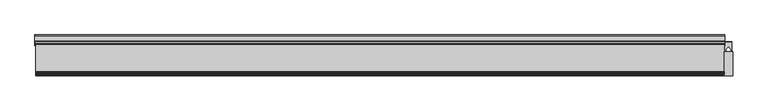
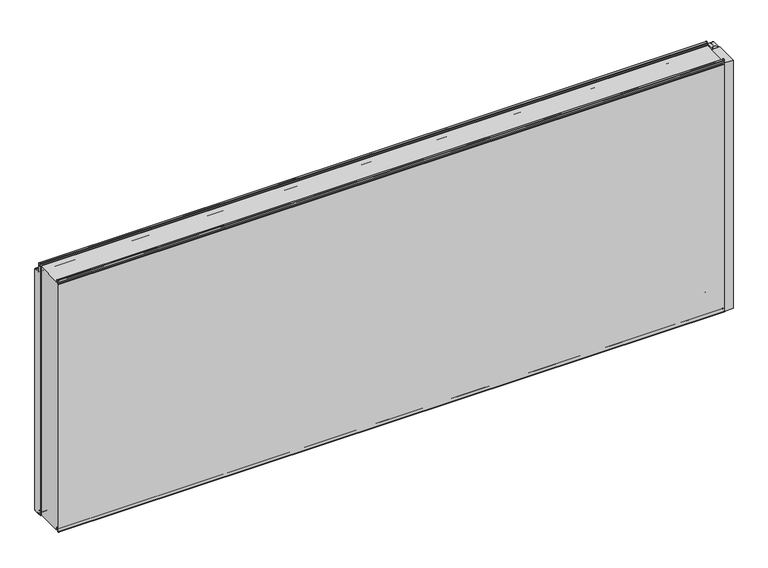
"""IFC4 building model written with IfcOpenShell, lengths in millimetres: plate geometry, Fronttop : Fronttop 150/1000."""

import ifcopenshell
import ifcopenshell.guid

model = None  # the IFC model being written
_history = None  # IfcOwnerHistory: only IFC2X3 demands one
_inside = {}  # id of a spatial element -> (the spatial element, [elements in it])
_under = {}  # id of a project, library or spatial element -> (it, [spatial elements below it])
_declared = {}  # id of a project -> (the project, [libraries it declares])
_typed = {}  # id of a type object -> (the type object, [elements of that type])
_made_of = {}  # id of a material, layer set ... -> (it, [elements and type objects made of it])


def new_model(schema):
    """Start an empty IFC model of exactly this schema.

    Asked for "IFC4X3", IfcOpenShell would pick the latest addendum, in which some entities
    have other attributes; the version numbers below select the first issue.
    IFC2X3 requires an IfcOwnerHistory on every rooted entity: one is made here for all.
    """
    global model, _history
    if schema == "IFC4X3":
        model = ifcopenshell.file(schema_version=(4, 3, 0, 0))
    else:
        model = ifcopenshell.file(schema=schema)
    _inside.clear()
    _under.clear()
    _declared.clear()
    _typed.clear()
    _made_of.clear()
    _history = None
    if model.schema == "IFC2X3":
        org = make("IfcOrganization", Name="unknown")
        user = make(
            "IfcPersonAndOrganization",
            ThePerson=make("IfcPerson", FamilyName="unknown"),
            TheOrganization=org,
        )
        app = make(
            "IfcApplication",
            ApplicationDeveloper=org,
            Version="unknown",
            ApplicationFullName="unknown",
            ApplicationIdentifier="unknown",
        )
        _history = make(
            "IfcOwnerHistory",
            OwningUser=user,
            OwningApplication=app,
            ChangeAction="ADDED",
            CreationDate=0,
        )
    return model


def make(cls, **values):
    """One entity of the class cls with the attributes given. An attribute that is None is left unset."""
    return model.create_entity(
        cls, **{name: value for name, value in values.items() if value is not None}
    )


def rooted(cls, **values):
    """An entity with a GlobalId (a new one), such as an element, a storey or a relation."""
    return make(cls, GlobalId=ifcopenshell.guid.new(), OwnerHistory=_history, **values)


def si_unit(unit_type, name, prefix=None):
    """IfcSIUnit, for example si_unit("LENGTHUNIT", "METRE", prefix="MILLI")."""
    return make("IfcSIUnit", UnitType=unit_type, Prefix=prefix, Name=name)


def assignment(units):
    """IfcUnitAssignment: the units of a project."""
    return None if units is None else make("IfcUnitAssignment", Units=units)


def point(xyz):
    """IfcCartesianPoint."""
    return None if xyz is None else make("IfcCartesianPoint", Coordinates=xyz)


def direction(xyz):
    """IfcDirection."""
    return None if xyz is None else make("IfcDirection", DirectionRatios=xyz)


def frame(location, z_axis=None, x_axis=None):
    """IfcAxis2Placement3D, a coordinate frame: its origin and axes. An axis left out is left unset."""
    return make(
        "IfcAxis2Placement3D",
        Location=point(location),
        Axis=direction(z_axis),
        RefDirection=direction(x_axis),
    )


def frame_2d(location, x_axis=None):
    """IfcAxis2Placement2D, a coordinate frame in the plane: its origin and x axis."""
    return make(
        "IfcAxis2Placement2D", Location=point(location), RefDirection=direction(x_axis)
    )


def origin():
    """The frame at (0, 0, 0) with its axes left unset."""
    return frame((0.0, 0.0, 0.0))


def origin_with_axes():
    """The frame at (0, 0, 0) with the z axis (0, 0, 1) and the x axis (1, 0, 0) written out."""
    return frame((0.0, 0.0, 0.0), z_axis=(0.0, 0.0, 1.0), x_axis=(1.0, 0.0, 0.0))


def place(relative_to, where):
    """IfcLocalPlacement: puts the frame where relative to a parent placement (None: the world)."""
    return make(
        "IfcLocalPlacement", PlacementRelTo=relative_to, RelativePlacement=where
    )


def context(
    kind, dimensions, precision=None, world=None, true_north=None, identifier=None
):
    """IfcGeometricRepresentationContext, for example the 3D "Model" context."""
    return make(
        "IfcGeometricRepresentationContext",
        ContextIdentifier=identifier,
        ContextType=kind,
        CoordinateSpaceDimension=dimensions,
        Precision=precision,
        WorldCoordinateSystem=world,
        TrueNorth=true_north,
    )


def project(units=None, contexts=None):
    """IfcProject with its units and contexts."""
    return rooted(
        "IfcProject",
        Name="project",
        RepresentationContexts=contexts,
        UnitsInContext=assignment(units),
    )


def spatial(cls, under=None, at=None, **own):
    """A site, building, storey or space (cls), placed at a placement, below another one or the project."""
    s = rooted(cls, ObjectPlacement=at, **own)
    if under is not None:
        _under.setdefault(under.id(), (under, []))[1].append(s)
    return s


def polyline(points):
    """IfcPolyline through the points."""
    return make("IfcPolyline", Points=[point(p) for p in points])


def circle_curve(where, radius):
    """IfcCircle in the frame where."""
    return make("IfcCircle", Position=where, Radius=radius)


def trimmed(basis, trim1, trim2, sense, master):
    """IfcTrimmedCurve: the piece of a basis curve between two trims."""
    return make(
        "IfcTrimmedCurve",
        BasisCurve=basis,
        Trim1=trim1,
        Trim2=trim2,
        SenseAgreement=sense,
        MasterRepresentation=master,
    )


def segment(curve, same_sense, transition):
    """IfcCompositeCurveSegment."""
    return make(
        "IfcCompositeCurveSegment",
        Transition=transition,
        SameSense=same_sense,
        ParentCurve=curve,
    )


def composite_curve(segments, self_intersect=None):
    """IfcCompositeCurve: segments joined end to end."""
    return make("IfcCompositeCurve", Segments=segments, SelfIntersect=self_intersect)


def outline(outer, holes=None, kind="AREA"):
    """IfcArbitraryClosedProfileDef: a profile drawn as a closed curve; with holes, ...WithVoids."""
    if holes is None:
        return make("IfcArbitraryClosedProfileDef", ProfileType=kind, OuterCurve=outer)
    return make(
        "IfcArbitraryProfileDefWithVoids",
        ProfileType=kind,
        OuterCurve=outer,
        InnerCurves=holes,
    )


def extrude(swept, where, along, depth):
    """IfcExtrudedAreaSolid: the profile swept, set in the frame where, extruded along a direction by depth."""
    return make(
        "IfcExtrudedAreaSolid",
        SweptArea=swept,
        Position=where,
        ExtrudedDirection=direction(along),
        Depth=depth,
    )


def shape(context_of_items, identifier, shape_type, items):
    """IfcShapeRepresentation: the items that make up one representation, for example the "Body"."""
    return make(
        "IfcShapeRepresentation",
        ContextOfItems=context_of_items,
        RepresentationIdentifier=identifier,
        RepresentationType=shape_type,
        Items=items,
    )


def source(mapping_origin, context_of_items, identifier, shape_type, items):
    """IfcRepresentationMap: a shape defined once, which mapped items show again and again."""
    return make(
        "IfcRepresentationMap",
        MappingOrigin=mapping_origin,
        MappedRepresentation=shape(context_of_items, identifier, shape_type, items),
    )


def transform(
    local_origin,
    x_axis=None,
    y_axis=None,
    z_axis=None,
    scale=None,
    scale2=None,
    scale3=None,
    uniform=True,
):
    """IfcCartesianTransformationOperator3D, or its non-uniform kind. x_axis, y_axis, z_axis: its Axis1, 2, 3."""
    if uniform:
        return make(
            "IfcCartesianTransformationOperator3D",
            Axis1=direction(x_axis),
            Axis2=direction(y_axis),
            LocalOrigin=point(local_origin),
            Scale=scale,
            Axis3=direction(z_axis),
        )
    return make(
        "IfcCartesianTransformationOperator3DnonUniform",
        Axis1=direction(x_axis),
        Axis2=direction(y_axis),
        LocalOrigin=point(local_origin),
        Scale=scale,
        Axis3=direction(z_axis),
        Scale2=scale2,
        Scale3=scale3,
    )


def mapped(mapping_source, mapping_target):
    """IfcMappedItem: shows the shape of a source again, moved by a transform."""
    return make(
        "IfcMappedItem", MappingSource=mapping_source, MappingTarget=mapping_target
    )


def made_of(thing, what):
    """Note that an element or type object is made of a material, layer set ...; save() writes the relation."""
    if what is not None:
        _made_of.setdefault(what.id(), (what, []))[1].append(thing)
    return thing


def element(
    cls,
    number,
    at=None,
    inside=None,
    cuts=None,
    type_object=None,
    material=None,
    context=None,
    identifier="Body",
    shape_type=None,
    held_by="IfcProductDefinitionShape",
    body=None,
    shapes=None,
    **own,
):
    """One element of the class cls, such as IfcWall. Its Tag is "e" and its number.

    at: its placement. inside: the storey or other place that contains it. cuts: it is an
    opening in that element (IfcRelVoidsElement). A single representation is given by context,
    identifier, shape_type and body (its items); several are given by shapes. held_by: the class
    of the entity that holds the representations. save() writes the other relations.
    """
    e = rooted(cls, Tag="e%d" % number, ObjectPlacement=at, **own)
    if body is not None:
        shapes = [shape(context, identifier, shape_type, body)]
    if shapes is not None:
        e.Representation = make(held_by, Representations=shapes)
    if inside is not None:
        _inside.setdefault(inside.id(), (inside, []))[1].append(e)
    if cuts is not None:
        rooted(
            "IfcRelVoidsElement", RelatingBuildingElement=cuts, RelatedOpeningElement=e
        )
    if type_object is not None:
        _typed.setdefault(type_object.id(), (type_object, []))[1].append(e)
    return made_of(e, material)


def aggregate(whole, parts):
    """IfcRelAggregates: a whole, such as a stair, and the parts it consists of."""
    return rooted("IfcRelAggregates", RelatingObject=whole, RelatedObjects=parts)


def save(model, path):
    """Write the relations noted so far, then the file.

    IfcRelAggregates (storeys below a building ...), IfcRelContainedInSpatialStructure (elements
    in a storey), IfcRelDefinesByType, IfcRelAssociatesMaterial and IfcRelDeclares: one each for
    every whole, place, type object, material and project.
    """
    for whole, parts in _under.values():
        aggregate(whole, parts)
    for where, things in _inside.values():
        rooted(
            "IfcRelContainedInSpatialStructure",
            RelatedElements=things,
            RelatingStructure=where,
        )
    for kind, things in _typed.values():
        rooted("IfcRelDefinesByType", RelatedObjects=things, RelatingType=kind)
    for what, things in _made_of.values():
        rooted("IfcRelAssociatesMaterial", RelatedObjects=things, RelatingMaterial=what)
    for by, libraries in _declared.values():
        rooted("IfcRelDeclares", RelatingContext=by, RelatedDefinitions=libraries)
    model.write(path)


def plane_surface(at):
    """IfcPlane: the flat surface through the origin of the frame at, square to its z axis."""
    return make("IfcPlane", Position=at)


def cylinder_surface(at, radius):
    """IfcCylindricalSurface: all points at the distance radius from the z axis of the frame at."""
    return make("IfcCylindricalSurface", Position=at, Radius=radius)


def revolved_surface(curve, axis_point, axis_direction):
    """IfcSurfaceOfRevolution: the curve turned about the line through axis_point along axis_direction."""
    return make(
        "IfcSurfaceOfRevolution",
        SweptCurve=make("IfcArbitraryOpenProfileDef", ProfileType="CURVE", Curve=curve),
        AxisPosition=make("IfcAxis1Placement", Location=point(axis_point), Axis=direction(axis_direction)),
    )


def advanced_brep(points, edges, surfaces, faces):
    """IfcAdvancedBrep: a solid bounded by faces that lie on surfaces and meet in shared edges.

    An edge is (start, end): straight between two places in points (the first is 0);
    or (start, end, curve); or (start, end, curve, False) where it runs against its curve.
    A face is (place in surfaces, loops), or (place, loops, False) where it looks against
    its surface's normal. A loop lists edges by number (the first is 1), with a minus sign
    where the edge is run from its end to its start. The first loop is the outer one.
    """
    corners = [point(p) for p in points]
    vertices = [make("IfcVertexPoint", VertexGeometry=c) for c in corners]
    made = []
    for start, end, *more in edges:
        made.append(
            make(
                "IfcEdgeCurve",
                EdgeStart=vertices[start],
                EdgeEnd=vertices[end],
                EdgeGeometry=more[0] if more else make("IfcPolyline", Points=[corners[start], corners[end]]),
                SameSense=more[1] if len(more) > 1 else True,
            )
        )
    hull = []
    for where, loops, *sense in faces:
        bounds = []
        for j, loop in enumerate(loops):
            ring = [make("IfcOrientedEdge", EdgeElement=made[abs(k) - 1], Orientation=k > 0) for k in loop]
            bounds.append(
                make(
                    "IfcFaceOuterBound" if j == 0 else "IfcFaceBound",
                    Bound=make("IfcEdgeLoop", EdgeList=ring),
                    Orientation=True,
                )
            )
        hull.append(make("IfcAdvancedFace", Bounds=bounds, FaceSurface=surfaces[where], SameSense=sense[0] if sense else True))
    return make("IfcAdvancedBrep", Outer=make("IfcClosedShell", CfsFaces=hull))


def plate_8fcb3820(model_context):
    return source(origin(), model_context, "Body", "SolidModel", [
        advanced_brep(
        [(-1271.5, 124.0, 1008.0), (-1271.5, 121.0, 1008.0), (-1271.5, 121.0, 1004.0), (-1271.5, 117.0, 1000.0), (-1271.5, 115.0, 1000.0), (-1271.5, 115.0, 1001.0), (-1271.5, 117.0, 1001.0), (-1271.5, 120.0, 1004.0), (-1271.5, 120.0, 1008.0), (-1271.5, 125.0, 1008.0), (-1271.5, 125.0, 1000.0), (-1271.5, 124.0, 1000.0), (1271.5, 125.0, 1008.0), (1271.5, 120.0, 1008.0), (1271.5, 120.0, 1004.0), (1271.5, 117.0, 1001.0), (1271.5, 115.0, 1001.0), (1271.5, 115.0, 1000.0), (1271.5, 117.0, 1000.0), (1271.5, 121.0, 1004.0), (1271.5, 121.0, 1008.0), (1271.5, 124.0, 1008.0), (1271.5, 124.0, 1000.0), (1271.5, 125.0, 1000.0), (-1271.5, 117.0, 2.0), (1271.5, 117.0, 2.0), (1271.5, 115.0, 2.0), (-1271.5, 115.0, 2.0), (-1271.5, 119.0, 4.0), (1271.5, 119.0, 4.0), (-1271.5, 119.0, 8.0), (1271.5, 119.0, 8.0), (-1271.5, 126.0, 8.0), (1271.5, 126.0, 8.0), (-1271.5, 126.0, 0.0), (1271.5, 126.0, 0.0), (-1271.5, 129.0, -3.0), (1271.5, 129.0, -3.0), (-1271.5, 125.0, -3.0), (-1272.5, 125.0, -3.0), (-1272.5, 147.0, -3.0), (-1271.5, 147.0, -3.0), (1271.5, 147.0, -3.0), (1272.5, 147.0, -3.0), (1272.5, 125.0, -3.0), (1271.5, 125.0, -3.0), (-1271.5, 150.0, 0.0), (1271.5, 150.0, 0.0), (-1272.5, 150.0, 0.0), (-1272.5, 150.0, 969.0), (-1271.5, 150.0, 969.0), (1271.5, 150.0, 969.0), (1272.5, 150.0, 969.0), (1272.5, 150.0, 0.0), (-1271.5, 147.0, 972.0), (1271.5, 147.0, 972.0), (-1272.5, 147.0, 972.0), (-1272.5, 128.0, 972.0), (-1271.5, 128.0, 972.0), (1271.5, 128.0, 972.0), (1272.5, 128.0, 972.0), (1272.5, 147.0, 972.0), (-1271.5, 125.0, 975.0), (1271.5, 125.0, 975.0), (-1272.5, 125.0, 975.0), (-1272.5, 125.0, 1000.0), (1272.5, 125.0, 1000.0), (1272.5, 125.0, 975.0), (-1271.5, 124.0, 975.0), (1271.5, 124.0, 975.0), (-1271.5, 128.0, 971.0), (1271.5, 128.0, 971.0), (-1271.5, 147.0, 971.0), (1271.5, 147.0, 971.0), (-1271.5, 149.0, 969.0), (1271.5, 149.0, 969.0), (-1271.5, 149.0, 0.0), (1271.5, 149.0, 0.0), (-1271.5, 147.0, -2.0), (1271.5, 147.0, -2.0), (-1271.5, 129.0, -2.0), (1271.5, 129.0, -2.0), (-1271.5, 127.0, 0.0), (1271.5, 127.0, 0.0), (-1271.5, 127.0, 8.0), (1271.5, 127.0, 8.0), (-1271.5, 118.0, 8.0), (1271.5, 118.0, 8.0), (-1271.5, 118.0, 4.0), (1271.5, 118.0, 4.0), (-1271.5, 117.0, 3.0), (1271.5, 117.0, 3.0), (-1271.5, 115.0, 3.0), (1271.5, 115.0, 3.0), (1272.5, 110.0, 1000.0), (1272.5, 110.0, 0.0), (1272.5, 125.0, 0.0), (1271.5, 125.0, 0.0), (1271.5, 110.0, 0.0), (1271.5, 110.0, 1000.0), (-1272.5, 125.0, 0.0), (-1272.5, 110.0, 0.0), (-1272.5, 110.0, 1000.0), (-1271.5, 110.0, 1000.0), (-1271.5, 110.0, 0.0), (-1271.5, 125.0, 0.0)],
        [
            (0, 1, circle_curve(frame((-1271.5, 122.5, 1008.0), z_axis=(1.0, 0.0, 0.0), x_axis=(0.0, -1.0, 0.0)), 1.5)),
            (1, 2),
            (2, 3, circle_curve(frame((-1271.5, 117.0, 1004.0), z_axis=(-1.0, 0.0, 0.0), x_axis=(0.0, -1.0, 0.0)), 4.0)),
            (3, 4),
            (4, 5),
            (5, 6),
            (6, 7, circle_curve(frame((-1271.5, 117.0, 1004.0), z_axis=(1.0, 0.0, 0.0), x_axis=(0.0, -1.0, 0.0)), 3.0)),
            (7, 8),
            (8, 9, circle_curve(frame((-1271.5, 122.5, 1008.0), z_axis=(-1.0, 0.0, 0.0), x_axis=(0.0, -1.0, 0.0)), 2.5)),
            (9, 10),
            (10, 11),
            (11, 0),
            (12, 13, circle_curve(frame((1271.5, 122.5, 1008.0), z_axis=(1.0, 0.0, 0.0), x_axis=(0.0, -1.0, 0.0)), 2.5)),
            (13, 14),
            (14, 15, circle_curve(frame((1271.5, 117.0, 1004.0), z_axis=(-1.0, 0.0, 0.0), x_axis=(0.0, -1.0, 0.0)), 3.0)),
            (15, 16),
            (16, 17),
            (17, 18),
            (18, 19, circle_curve(frame((1271.5, 117.0, 1004.0), z_axis=(1.0, 0.0, 0.0), x_axis=(0.0, -1.0, 0.0)), 4.0)),
            (19, 20),
            (20, 21, circle_curve(frame((1271.5, 122.5, 1008.0), z_axis=(-1.0, 0.0, 0.0), x_axis=(0.0, -1.0, 0.0)), 1.5)),
            (21, 22),
            (22, 23),
            (23, 12),
            (24, 25),
            (25, 26),
            (26, 27),
            (27, 24),
            (24, 28, circle_curve(frame((-1271.5, 117.0, 4.0), z_axis=(1.0, 0.0, 0.0), x_axis=(0.0, -1.0, 0.0)), 2.0)),
            (28, 29),
            (29, 25, circle_curve(frame((1271.5, 117.0, 4.0), z_axis=(-1.0, 0.0, 0.0), x_axis=(0.0, -1.0, 0.0)), 2.0)),
            (28, 30),
            (30, 31),
            (31, 29),
            (30, 32, circle_curve(frame((-1271.5, 122.5, 8.0), z_axis=(-1.0, 0.0, 0.0), x_axis=(0.0, -1.0, 0.0)), 3.5)),
            (32, 33),
            (33, 31, circle_curve(frame((1271.5, 122.5, 8.0), z_axis=(1.0, 0.0, 0.0), x_axis=(0.0, -1.0, 0.0)), 3.5)),
            (32, 34),
            (34, 35),
            (35, 33),
            (34, 36, circle_curve(frame((-1271.5, 129.0, 0.0), z_axis=(1.0, 0.0, 0.0), x_axis=(0.0, -1.0, 0.0)), 3.0)),
            (36, 37),
            (37, 35, circle_curve(frame((1271.5, 129.0, 0.0), z_axis=(-1.0, 0.0, 0.0), x_axis=(0.0, -1.0, 0.0)), 3.0)),
            (36, 38),
            (38, 39),
            (39, 40),
            (40, 41),
            (41, 42),
            (42, 43),
            (43, 44),
            (44, 45),
            (45, 37),
            (41, 46, circle_curve(frame((-1271.5, 147.0, 0.0), z_axis=(1.0, 0.0, 0.0), x_axis=(0.0, -1.0, 0.0)), 3.0)),
            (46, 47),
            (47, 42, circle_curve(frame((1271.5, 147.0, 0.0), z_axis=(-1.0, 0.0, 0.0), x_axis=(0.0, -1.0, 0.0)), 3.0)),
            (46, 48),
            (48, 49),
            (49, 50),
            (50, 51),
            (51, 52),
            (52, 53),
            (53, 47),
            (50, 54, circle_curve(frame((-1271.5, 147.0, 969.0), z_axis=(1.0, 0.0, 0.0), x_axis=(0.0, -1.0, 0.0)), 3.0)),
            (54, 55),
            (55, 51, circle_curve(frame((1271.5, 147.0, 969.0), z_axis=(-1.0, 0.0, 0.0), x_axis=(0.0, -1.0, 0.0)), 3.0)),
            (54, 56),
            (56, 57),
            (57, 58),
            (58, 59),
            (59, 60),
            (60, 61),
            (61, 55),
            (58, 62, circle_curve(frame((-1271.5, 128.0, 975.0), z_axis=(-1.0, 0.0, 0.0), x_axis=(0.0, -1.0, 0.0)), 3.0)),
            (62, 63),
            (63, 59, circle_curve(frame((1271.5, 128.0, 975.0), z_axis=(1.0, 0.0, 0.0), x_axis=(0.0, -1.0, 0.0)), 3.0)),
            (62, 64),
            (64, 65),
            (65, 10),
            (9, 12),
            (23, 66),
            (66, 67),
            (67, 63),
            (8, 13),
            (7, 14),
            (6, 15),
            (5, 16),
            (4, 17),
            (4, 3),
            (3, 18),
            (18, 17),
            (2, 19),
            (1, 20),
            (0, 21),
            (11, 68),
            (68, 69),
            (69, 22),
            (68, 70, circle_curve(frame((-1271.5, 128.0, 975.0), z_axis=(1.0, 0.0, 0.0), x_axis=(0.0, -1.0, 0.0)), 4.0)),
            (70, 71),
            (71, 69, circle_curve(frame((1271.5, 128.0, 975.0), z_axis=(-1.0, 0.0, 0.0), x_axis=(0.0, -1.0, 0.0)), 4.0)),
            (70, 72),
            (72, 73),
            (73, 71),
            (72, 74, circle_curve(frame((-1271.5, 147.0, 969.0), z_axis=(-1.0, 0.0, 0.0), x_axis=(0.0, -1.0, 0.0)), 2.0)),
            (74, 75),
            (75, 73, circle_curve(frame((1271.5, 147.0, 969.0), z_axis=(1.0, 0.0, 0.0), x_axis=(0.0, -1.0, 0.0)), 2.0)),
            (74, 76),
            (76, 77),
            (77, 75),
            (76, 78, circle_curve(frame((-1271.5, 147.0, 0.0), z_axis=(-1.0, 0.0, 0.0), x_axis=(0.0, -1.0, 0.0)), 2.0)),
            (78, 79),
            (79, 77, circle_curve(frame((1271.5, 147.0, 0.0), z_axis=(1.0, 0.0, 0.0), x_axis=(0.0, -1.0, 0.0)), 2.0)),
            (78, 80),
            (80, 81),
            (81, 79),
            (80, 82, circle_curve(frame((-1271.5, 129.0, 0.0), z_axis=(-1.0, 0.0, 0.0), x_axis=(0.0, -1.0, 0.0)), 2.0)),
            (82, 83),
            (83, 81, circle_curve(frame((1271.5, 129.0, 0.0), z_axis=(1.0, 0.0, 0.0), x_axis=(0.0, -1.0, 0.0)), 2.0)),
            (82, 84),
            (84, 85),
            (85, 83),
            (84, 86, circle_curve(frame((-1271.5, 122.5, 8.0), z_axis=(1.0, 0.0, 0.0), x_axis=(0.0, -1.0, 0.0)), 4.5)),
            (86, 87),
            (87, 85, circle_curve(frame((1271.5, 122.5, 8.0), z_axis=(-1.0, 0.0, 0.0), x_axis=(0.0, -1.0, 0.0)), 4.5)),
            (86, 88),
            (88, 89),
            (89, 87),
            (88, 90, circle_curve(frame((-1271.5, 117.0, 4.0), z_axis=(-1.0, 0.0, 0.0), x_axis=(0.0, -1.0, 0.0)), 1.0)),
            (90, 91),
            (91, 89, circle_curve(frame((1271.5, 117.0, 4.0), z_axis=(1.0, 0.0, 0.0), x_axis=(0.0, -1.0, 0.0)), 1.0)),
            (90, 92),
            (92, 93),
            (93, 91),
            (26, 93),
            (92, 27),
            (66, 94),
            (94, 95),
            (95, 96),
            (96, 44),
            (43, 53, circle_curve(frame((1272.5, 147.0, 0.0), z_axis=(1.0, 0.0, 0.0), x_axis=(0.0, 1.0, 0.0)), 3.0)),
            (52, 61, circle_curve(frame((1272.5, 147.0, 969.0), z_axis=(1.0, 0.0, 0.0), x_axis=(0.0, 1.0, 0.0)), 3.0)),
            (60, 67, circle_curve(frame((1272.5, 128.0, 975.0), z_axis=(-1.0, 0.0, 0.0), x_axis=(0.0, 1.0, 0.0)), 3.0)),
            (45, 97),
            (97, 98),
            (98, 99),
            (99, 17),
            (18, 22),
            (99, 94),
            (98, 95),
            (97, 96),
            (64, 57, circle_curve(frame((-1272.5, 128.0, 975.0), z_axis=(1.0, 0.0, 0.0), x_axis=(0.0, 1.0, 0.0)), 3.0)),
            (56, 49, circle_curve(frame((-1272.5, 147.0, 969.0), z_axis=(-1.0, 0.0, 0.0), x_axis=(0.0, 1.0, 0.0)), 3.0)),
            (48, 40, circle_curve(frame((-1272.5, 147.0, 0.0), z_axis=(-1.0, 0.0, 0.0), x_axis=(0.0, 1.0, 0.0)), 3.0)),
            (39, 100),
            (100, 101),
            (101, 102),
            (102, 65),
            (103, 104),
            (104, 105),
            (105, 38),
            (11, 3),
            (4, 103),
            (102, 103),
            (101, 104),
            (100, 105),
        ],
        [
            plane_surface(frame((-1271.5, 0.0, 0.0), z_axis=(-1.0, 0.0, 0.0), x_axis=(0.0, 0.0, 1.0))),
            plane_surface(frame((1271.5, 0.0, 0.0), z_axis=(1.0, 0.0, 0.0), x_axis=(0.0, 0.0, 1.0))),
            plane_surface(frame((-1271.5, 117.0, 2.0), z_axis=(0.0, 0.0, -1.0), x_axis=(1.0, 0.0, 0.0))),
            cylinder_surface(frame((-1271.5, 117.0, 4.0), z_axis=(-1.0, 0.0, 0.0), x_axis=(0.0, -1.0, 0.0)), 2.0),
            plane_surface(frame((-1271.5, 119.0, 8.0), z_axis=(0.0, 1.0, 0.0), x_axis=(1.0, 0.0, 0.0))),
            revolved_surface(polyline([(1271.5, 119.0, 8.0), (-1271.5, 119.0, 8.0)]), (-1271.5, 122.5, 8.0), (1.0, 0.0, 0.0)),
            plane_surface(frame((-1271.5, 126.0, 0.0), z_axis=(0.0, -1.0, 0.0), x_axis=(1.0, 0.0, 0.0))),
            cylinder_surface(frame((-1271.5, 129.0, 0.0), z_axis=(-1.0, 0.0, 0.0), x_axis=(0.0, -1.0, 0.0)), 3.0),
            plane_surface(frame((-1271.5, 147.0, -3.0), z_axis=(0.0, 0.0, -1.0), x_axis=(1.0, 0.0, 0.0))),
            cylinder_surface(frame((-1271.5, 147.0, 0.0), z_axis=(-1.0, 0.0, 0.0), x_axis=(0.0, -1.0, 0.0)), 3.0),
            plane_surface(frame((-1271.5, 150.0, 969.0), z_axis=(0.0, 1.0, 0.0), x_axis=(1.0, 0.0, 0.0))),
            cylinder_surface(frame((-1271.5, 147.0, 969.0), z_axis=(-1.0, 0.0, 0.0), x_axis=(0.0, -1.0, 0.0)), 3.0),
            plane_surface(frame((-1271.5, 128.0, 972.0), z_axis=(0.0, 0.0, 1.0), x_axis=(1.0, 0.0, 0.0))),
            revolved_surface(polyline([(1271.5, 125.0, 975.0), (-1271.5, 125.0, 975.0)]), (-1271.5, 128.0, 975.0), (1.0, 0.0, 0.0)),
            plane_surface(frame((-1271.5, 125.0, 1008.0), z_axis=(0.0, 1.0, 0.0), x_axis=(1.0, 0.0, 0.0))),
            cylinder_surface(frame((-1271.5, 122.5, 1008.0), z_axis=(-1.0, 0.0, 0.0), x_axis=(0.0, -1.0, 0.0)), 2.5),
            plane_surface(frame((-1271.5, 120.0, 1004.0), z_axis=(0.0, -1.0, 0.0), x_axis=(1.0, 0.0, 0.0))),
            revolved_surface(polyline([(1271.5, 114.0, 1004.0), (-1271.5, 114.0, 1004.0)]), (-1271.5, 117.0, 1004.0), (1.0, 0.0, 0.0)),
            plane_surface(frame((-1271.5, 115.0, 1001.0), z_axis=(0.0, 0.0, 1.0), x_axis=(1.0, 0.0, 0.0))),
            plane_surface(frame((-1271.5, 115.0, 1000.0), z_axis=(0.0, -1.0, 0.0), x_axis=(1.0, 0.0, 0.0))),
            plane_surface(frame((-1271.5, 117.0, 1000.0), z_axis=(0.0, 0.0, -1.0), x_axis=(1.0, 0.0, 0.0))),
            cylinder_surface(frame((-1271.5, 117.0, 1004.0), z_axis=(-1.0, 0.0, 0.0), x_axis=(0.0, -1.0, 0.0)), 4.0),
            plane_surface(frame((-1271.5, 121.0, 1008.0), z_axis=(0.0, 1.0, 0.0), x_axis=(1.0, 0.0, 0.0))),
            revolved_surface(polyline([(1271.5, 121.0, 1008.0), (-1271.5, 121.0, 1008.0)]), (-1271.5, 122.5, 1008.0), (1.0, 0.0, 0.0)),
            plane_surface(frame((-1271.5, 124.0, 975.0), z_axis=(0.0, -1.0, 0.0), x_axis=(1.0, 0.0, 0.0))),
            cylinder_surface(frame((-1271.5, 128.0, 975.0), z_axis=(-1.0, 0.0, 0.0), x_axis=(0.0, -1.0, 0.0)), 4.0),
            plane_surface(frame((-1271.5, 147.0, 971.0), z_axis=(0.0, 0.0, -1.0), x_axis=(1.0, 0.0, 0.0))),
            revolved_surface(polyline([(1271.5, 145.0, 969.0), (-1271.5, 145.0, 969.0)]), (-1271.5, 147.0, 969.0), (1.0, 0.0, 0.0)),
            plane_surface(frame((-1271.5, 149.0, 0.0), z_axis=(0.0, -1.0, 0.0), x_axis=(1.0, 0.0, 0.0))),
            revolved_surface(polyline([(1271.5, 145.0, 0.0), (-1271.5, 145.0, 0.0)]), (-1271.5, 147.0, 0.0), (1.0, 0.0, 0.0)),
            plane_surface(frame((-1271.5, 129.0, -2.0), z_axis=(0.0, 0.0, 1.0), x_axis=(1.0, 0.0, 0.0))),
            revolved_surface(polyline([(1271.5, 127.0, 0.0), (-1271.5, 127.0, 0.0)]), (-1271.5, 129.0, 0.0), (1.0, 0.0, 0.0)),
            plane_surface(frame((-1271.5, 127.0, 8.0), z_axis=(0.0, 1.0, 0.0), x_axis=(1.0, 0.0, 0.0))),
            cylinder_surface(frame((-1271.5, 122.5, 8.0), z_axis=(-1.0, 0.0, 0.0), x_axis=(0.0, -1.0, 0.0)), 4.5),
            plane_surface(frame((-1271.5, 118.0, 4.0), z_axis=(0.0, -1.0, 0.0), x_axis=(1.0, 0.0, 0.0))),
            revolved_surface(polyline([(1271.5, 116.0, 4.0), (-1271.5, 116.0, 4.0)]), (-1271.5, 117.0, 4.0), (1.0, 0.0, 0.0)),
            plane_surface(frame((-1271.5, 115.0, 3.0), z_axis=(0.0, 0.0, 1.0), x_axis=(1.0, 0.0, 0.0))),
            plane_surface(frame((-1271.5, 115.0, 2.0), z_axis=(0.0, -1.0, 0.0), x_axis=(1.0, 0.0, 0.0))),
            plane_surface(frame((1272.5, 125.0, 1000.0), z_axis=(1.0, 0.0, 0.0), x_axis=(0.0, -1.0, 0.0))),
            plane_surface(frame((1271.5, 125.0, 1000.0), z_axis=(-1.0, 0.0, 0.0), x_axis=(0.0, 1.0, 0.0))),
            plane_surface(frame((1272.5, 125.0, 1000.0), z_axis=(0.0, 0.0, 1.0), x_axis=(-1.0, 0.0, 0.0))),
            plane_surface(frame((1272.5, 110.0, 1000.0), z_axis=(0.0, -1.0, 0.0), x_axis=(-1.0, 0.0, 0.0))),
            plane_surface(frame((1272.5, 110.0, 0.0), z_axis=(0.0, 0.0, -1.0), x_axis=(-1.0, 0.0, 0.0))),
            cylinder_surface(frame((1271.5, 147.0, 0.0), z_axis=(1.0, 0.0, 0.0), x_axis=(0.0, 1.0, 0.0)), 3.0),
            cylinder_surface(frame((1271.5, 147.0, 969.0), z_axis=(1.0, 0.0, 0.0), x_axis=(0.0, 1.0, 0.0)), 3.0),
            revolved_surface(polyline([(1271.5, 131.0, 975.0), (1272.5, 131.0, 975.0)]), (1271.5, 128.0, 975.0), (-1.0, 0.0, 0.0)),
            plane_surface(frame((-1272.5, 125.0, 1000.0), z_axis=(-1.0, 0.0, 0.0), x_axis=(0.0, 1.0, 0.0))),
            plane_surface(frame((-1271.5, 125.0, 1000.0), z_axis=(1.0, 0.0, 0.0), x_axis=(0.0, -1.0, 0.0))),
            plane_surface(frame((-1271.5, 125.0, 1000.0), z_axis=(0.0, 0.0, 1.0), x_axis=(-1.0, 0.0, 0.0))),
            plane_surface(frame((-1271.5, 110.0, 1000.0), z_axis=(0.0, -1.0, 0.0), x_axis=(-1.0, 0.0, 0.0))),
            plane_surface(frame((-1271.5, 110.0, 0.0), z_axis=(0.0, 0.0, -1.0), x_axis=(-1.0, 0.0, 0.0))),
            cylinder_surface(frame((-1272.5, 147.0, 0.0), z_axis=(1.0, 0.0, 0.0), x_axis=(0.0, 1.0, 0.0)), 3.0),
            cylinder_surface(frame((-1272.5, 147.0, 969.0), z_axis=(1.0, 0.0, 0.0), x_axis=(0.0, 1.0, 0.0)), 3.0),
            revolved_surface(polyline([(-1272.5, 131.0, 975.0), (-1271.5, 131.0, 975.0)]), (-1272.5, 128.0, 975.0), (-1.0, 0.0, 0.0)),
            plane_surface(frame((1272.5, 125.0, 0.0), z_axis=(0.0, -1.0, 0.0), x_axis=(-1.0, 0.0, 0.0))),
            plane_surface(frame((-1271.5, 125.0, 0.0), z_axis=(0.0, -1.0, 0.0), x_axis=(-1.0, 0.0, 0.0))),
        ],
        [
            (0, [[1, 2, 3, 4, 5, 6, 7, 8, 9, 10, 11, 12]]),
            (1, [[13, 14, 15, 16, 17, 18, 19, 20, 21, 22, 23, 24]]),
            (2, [[25, 26, 27, 28]]),
            (3, [[-25, 29, 30, 31]]),
            (4, [[-30, 32, 33, 34]]),
            (5, [[-33, 35, 36, 37]]),
            (6, [[-36, 38, 39, 40]]),
            (7, [[-39, 41, 42, 43]]),
            (8, [[-42, 44, 45, 46, 47, 48, 49, 50, 51, 52]]),
            (9, [[-48, 53, 54, 55]]),
            (10, [[-54, 56, 57, 58, 59, 60, 61, 62]]),
            (11, [[-59, 63, 64, 65]]),
            (12, [[-64, 66, 67, 68, 69, 70, 71, 72]]),
            (13, [[-69, 73, 74, 75]]),
            (14, [[-74, 76, 77, 78, -10, 79, -24, 80, 81, 82]]),
            (15, [[-9, 83, -13, -79]]),
            (16, [[-8, 84, -14, -83]]),
            (17, [[-7, 85, -15, -84]]),
            (18, [[-6, 86, -16, -85]]),
            (19, [[-5, 87, -17, -86]]),
            (20, [[-87, 88, 89, 90]]),
            (21, [[-3, 91, -19, -89]]),
            (22, [[-2, 92, -20, -91]]),
            (23, [[-1, 93, -21, -92]]),
            (24, [[-93, -12, 94, 95, 96, -22]]),
            (25, [[-95, 97, 98, 99]]),
            (26, [[-98, 100, 101, 102]]),
            (27, [[-101, 103, 104, 105]]),
            (28, [[-104, 106, 107, 108]]),
            (29, [[-107, 109, 110, 111]]),
            (30, [[-110, 112, 113, 114]]),
            (31, [[-113, 115, 116, 117]]),
            (32, [[-116, 118, 119, 120]]),
            (33, [[-119, 121, 122, 123]]),
            (34, [[-122, 124, 125, 126]]),
            (35, [[-125, 127, 128, 129]]),
            (36, [[-128, 130, 131, 132]]),
            (37, [[-27, 133, -131, 134]]),
            (38, [[135, 136, 137, 138, -50, 139, -61, 140, -71, 141, -81]]),
            (39, [[142, 143, 144, 145, -90, 146, -96, -99, -102, -105, -108, -111, -114, -117, -120, -123, -126, -129, -132, -133, -26, -31, -34, -37, -40, -43, -52]]),
            (40, [[-135, -80, -23, -146, -18, -145, 147]]),
            (41, [[-136, -147, -144, 148]]),
            (42, [[-137, -148, -143, 149]]),
            (43, [[-139, -49, -55, -62]]),
            (44, [[-140, -60, -65, -72]]),
            (45, [[-141, -70, -75, -82]]),
            (46, [[-77, 150, -67, 151, -57, 152, -46, 153, 154, 155, 156]]),
            (47, [[157, 158, 159, -44, -41, -38, -35, -32, -29, -28, -134, -130, -127, -124, -121, -118, -115, -112, -109, -106, -103, -100, -97, -94, 160, -88, 161]]),
            (48, [[-156, 162, -161, -4, -160, -11, -78]]),
            (49, [[-155, 163, -157, -162]]),
            (50, [[-154, 164, -158, -163]]),
            (51, [[-152, -56, -53, -47]]),
            (52, [[-151, -66, -63, -58]]),
            (53, [[-150, -76, -73, -68]]),
            (54, [[-138, -149, -142, -51]]),
            (55, [[-153, -45, -159, -164]]),
        ],
    ),
        extrude(outline(composite_curve([segment(polyline([(1272.4998455, 123.5), (1284.25, 123.5), (1284.25, 107.5), (1285.75, 107.5), (1285.75, 123.5), (1297.5001545, 123.5), (1297.5001545, 90.0), (1294.75, 90.0), (1294.75, 92.5)]), True, "CONTINUOUS"), segment(trimmed(circle_curve(frame_2d((1276.9661979, 89.3183984)), 18.0661619), [point((1294.75, 92.5))], [point((1285.0, 105.5))], True, "CARTESIAN"), True, "CONTINUOUS"), segment(trimmed(circle_curve(frame_2d((1293.0338021, 89.3183984)), 18.0661619), [point((1285.0, 105.5))], [point((1275.25, 92.5))], True, "CARTESIAN"), True, "CONTINUOUS"), segment(polyline([(1275.25, 92.5), (1275.25, 90.0), (1272.4998455, 90.0), (1272.4998455, 123.5)]), True, "CONTINUOUS")], self_intersect=False)), origin_with_axes(), (0.0, 0.0, 1.0), 1000.0),
        extrude(outline(polyline([(1300.5, 0.0), (1269.5, 0.0), (1269.5, 88.0), (1300.5, 88.0), (1300.5, 0.0)])), origin_with_axes(), (0.0, 0.0, 1.0), 1000.0),
        extrude(outline(polyline([(1273.4948846, 125.0), (1296.5051154, 125.0), (1296.5051154, 123.5), (1285.6502496, 123.5), (1285.6502496, 109.0759655), (1284.35, 109.0759655), (1284.35, 123.5), (1273.4948846, 123.5), (1273.4948846, 125.0)])), origin_with_axes(), (0.0, 0.0, 1.0), 1000.0),
        advanced_brep(
        [(-1269.5, 13.0, 1001.0), (-1269.5, 15.0, 1001.0), (-1269.5, 15.0, 1000.0), (-1269.5, 13.0, 1000.0), (-1269.5, 9.0, 1004.0), (-1269.5, 9.0, 1008.0), (-1269.5, 6.0, 1008.0), (-1269.5, 6.0, 999.5), (-1269.5, 2.1134897, 996.0214069), (-1269.5, 1.0, 995.0), (-1269.5, 1.0, -0.5), (-1269.5, 3.0, -0.5), (-1269.5, 3.0, 8.0), (-1269.5, 12.0, 8.0), (-1269.5, 12.0, 4.0), (-1269.5, 13.0, 3.0), (-1269.5, 15.0, 3.0), (-1269.5, 15.0, 2.0), (-1269.5, 13.0, 2.0), (-1269.5, 11.0, 4.0), (-1269.5, 11.0, 8.0), (-1269.5, 4.0, 8.0), (-1269.5, 4.0, -0.5), (-1269.5, 0.0, -0.5), (-1269.5, 0.0, 995.0), (-1269.5, 2.220863, 996.9877675), (-1269.5, 5.0, 999.5), (-1269.5, 5.0, 1008.0), (-1269.5, 10.0, 1008.0), (-1269.5, 10.0, 1004.0), (1269.5, 13.0, 1001.0), (1269.5, 10.0, 1004.0), (1269.5, 10.0, 1008.0), (1269.5, 5.0, 1008.0), (1269.5, 5.0, 999.5), (1269.5, 2.2239212, 997.0152907), (1269.5, 0.0, 995.0), (1269.5, 0.0, -0.5), (1269.5, 4.0, -0.5), (1269.5, 4.0, 8.0), (1269.5, 11.0, 8.0), (1269.5, 11.0, 4.0), (1269.5, 13.0, 2.0), (1269.5, 15.0, 2.0), (1269.5, 15.0, 3.0), (1269.5, 13.0, 3.0), (1269.5, 12.0, 4.0), (1269.5, 12.0, 8.0), (1269.5, 3.0, 8.0), (1269.5, 3.0, -0.5), (1269.5, 1.0, -0.5), (1269.5, 1.0, 995.0), (1269.5, 2.1104315, 995.9938837), (1269.5, 6.0, 999.5), (1269.5, 6.0, 1008.0), (1269.5, 9.0, 1008.0), (1269.5, 9.0, 1004.0), (1269.5, 13.0, 1000.0), (1269.5, 15.0, 1000.0), (1269.5, 15.0, 1001.0)],
        [
            (0, 1),
            (1, 2),
            (2, 3),
            (3, 4, circle_curve(frame((-1269.5, 13.0, 1004.0), z_axis=(-1.0, 0.0, 0.0), x_axis=(0.0, -1.0, 0.0)), 4.0)),
            (4, 5),
            (5, 6, circle_curve(frame((-1269.5, 7.5, 1008.0), z_axis=(1.0, 0.0, 0.0), x_axis=(0.0, -1.0, 0.0)), 1.5)),
            (6, 7),
            (7, 8, circle_curve(frame((-1269.5, 2.5, 999.5), z_axis=(-1.0, 0.0, 0.0), x_axis=(0.0, -1.0, 0.0)), 3.5)),
            (8, 9, circle_curve(frame((-1269.5, 2.0, 995.0), z_axis=(1.0, 0.0, 0.0), x_axis=(0.0, -1.0, 0.0)), 1.0)),
            (9, 10),
            (10, 11, circle_curve(frame((-1269.5, 2.0, -0.5), z_axis=(1.0, 0.0, 0.0), x_axis=(0.0, -1.0, 0.0)), 1.0)),
            (11, 12),
            (12, 13, circle_curve(frame((-1269.5, 7.5, 8.0), z_axis=(-1.0, 0.0, 0.0), x_axis=(0.0, -1.0, 0.0)), 4.5)),
            (13, 14),
            (14, 15, circle_curve(frame((-1269.5, 13.0, 4.0), z_axis=(1.0, 0.0, 0.0), x_axis=(0.0, -1.0, 0.0)), 1.0)),
            (15, 16),
            (16, 17),
            (17, 18),
            (18, 19, circle_curve(frame((-1269.5, 13.0, 4.0), z_axis=(-1.0, 0.0, 0.0), x_axis=(0.0, -1.0, 0.0)), 2.0)),
            (19, 20),
            (20, 21, circle_curve(frame((-1269.5, 7.5, 8.0), z_axis=(1.0, 0.0, 0.0), x_axis=(0.0, -1.0, 0.0)), 3.5)),
            (21, 22),
            (22, 23, circle_curve(frame((-1269.5, 2.0, -0.5), z_axis=(-1.0, 0.0, 0.0), x_axis=(0.0, -1.0, 0.0)), 2.0)),
            (23, 24),
            (24, 25, circle_curve(frame((-1269.5, 2.0, 995.0), z_axis=(-1.0, 0.0, 0.0), x_axis=(0.0, -1.0, 0.0)), 2.0)),
            (25, 26, circle_curve(frame((-1269.5, 2.5, 999.5), z_axis=(1.0, 0.0, 0.0), x_axis=(0.0, -1.0, 0.0)), 2.5)),
            (26, 27),
            (27, 28, circle_curve(frame((-1269.5, 7.5, 1008.0), z_axis=(-1.0, 0.0, 0.0), x_axis=(0.0, -1.0, 0.0)), 2.5)),
            (28, 29),
            (29, 0, circle_curve(frame((-1269.5, 13.0, 1004.0), z_axis=(1.0, 0.0, 0.0), x_axis=(0.0, -1.0, 0.0)), 3.0)),
            (30, 31, circle_curve(frame((1269.5, 13.0, 1004.0), z_axis=(-1.0, 0.0, 0.0), x_axis=(0.0, -1.0, 0.0)), 3.0)),
            (31, 32),
            (32, 33, circle_curve(frame((1269.5, 7.5, 1008.0), z_axis=(1.0, 0.0, 0.0), x_axis=(0.0, -1.0, 0.0)), 2.5)),
            (33, 34),
            (34, 35, circle_curve(frame((1269.5, 2.5, 999.5), z_axis=(-1.0, 0.0, 0.0), x_axis=(0.0, -1.0, 0.0)), 2.5)),
            (35, 36, circle_curve(frame((1269.5, 2.0, 995.0), z_axis=(1.0, 0.0, 0.0), x_axis=(0.0, -1.0, 0.0)), 2.0)),
            (36, 37),
            (37, 38, circle_curve(frame((1269.5, 2.0, -0.5), z_axis=(1.0, 0.0, 0.0), x_axis=(0.0, -1.0, 0.0)), 2.0)),
            (38, 39),
            (39, 40, circle_curve(frame((1269.5, 7.5, 8.0), z_axis=(-1.0, 0.0, 0.0), x_axis=(0.0, -1.0, 0.0)), 3.5)),
            (40, 41),
            (41, 42, circle_curve(frame((1269.5, 13.0, 4.0), z_axis=(1.0, 0.0, 0.0), x_axis=(0.0, -1.0, 0.0)), 2.0)),
            (42, 43),
            (43, 44),
            (44, 45),
            (45, 46, circle_curve(frame((1269.5, 13.0, 4.0), z_axis=(-1.0, 0.0, 0.0), x_axis=(0.0, -1.0, 0.0)), 1.0)),
            (46, 47),
            (47, 48, circle_curve(frame((1269.5, 7.5, 8.0), z_axis=(1.0, 0.0, 0.0), x_axis=(0.0, -1.0, 0.0)), 4.5)),
            (48, 49),
            (49, 50, circle_curve(frame((1269.5, 2.0, -0.5), z_axis=(-1.0, 0.0, 0.0), x_axis=(0.0, -1.0, 0.0)), 1.0)),
            (50, 51),
            (51, 52, circle_curve(frame((1269.5, 2.0, 995.0), z_axis=(-1.0, 0.0, 0.0), x_axis=(0.0, -1.0, 0.0)), 1.0)),
            (52, 53, circle_curve(frame((1269.5, 2.5, 999.5), z_axis=(1.0, 0.0, 0.0), x_axis=(0.0, -1.0, 0.0)), 3.5)),
            (53, 54),
            (54, 55, circle_curve(frame((1269.5, 7.5, 1008.0), z_axis=(-1.0, 0.0, 0.0), x_axis=(0.0, -1.0, 0.0)), 1.5)),
            (55, 56),
            (56, 57, circle_curve(frame((1269.5, 13.0, 1004.0), z_axis=(1.0, 0.0, 0.0), x_axis=(0.0, -1.0, 0.0)), 4.0)),
            (57, 58),
            (58, 59),
            (59, 30),
            (0, 30),
            (59, 1),
            (58, 2),
            (57, 3),
            (56, 4),
            (55, 5),
            (54, 6),
            (53, 7),
            (52, 8),
            (51, 9),
            (50, 10),
            (49, 11),
            (48, 12),
            (47, 13),
            (46, 14),
            (45, 15),
            (44, 16),
            (43, 17),
            (42, 18),
            (41, 19),
            (40, 20),
            (39, 21),
            (38, 22),
            (37, 23),
            (36, 24),
            (35, 25),
            (34, 26),
            (33, 27),
            (32, 28),
            (31, 29),
        ],
        [
            plane_surface(frame((-1269.5, 0.0, 0.0), z_axis=(-1.0, 0.0, 0.0), x_axis=(0.0, 0.0, 1.0))),
            plane_surface(frame((1269.5, 0.0, 0.0), z_axis=(1.0, 0.0, 0.0), x_axis=(0.0, 0.0, 1.0))),
            plane_surface(frame((-1269.5, 13.0, 1001.0), z_axis=(0.0, 0.0, 1.0), x_axis=(1.0, 0.0, 0.0))),
            plane_surface(frame((-1269.5, 15.0, 1001.0), z_axis=(0.0, 1.0, 0.0), x_axis=(1.0, 0.0, 0.0))),
            plane_surface(frame((-1269.5, 15.0, 1000.0), z_axis=(0.0, 0.0, -1.0), x_axis=(1.0, 0.0, 0.0))),
            cylinder_surface(frame((-1269.5, 13.0, 1004.0), z_axis=(-1.0, 0.0, 0.0), x_axis=(0.0, -1.0, 0.0)), 4.0),
            plane_surface(frame((-1269.5, 9.0, 1004.0), z_axis=(0.0, -1.0, 0.0), x_axis=(1.0, 0.0, 0.0))),
            revolved_surface(polyline([(1269.5, 6.0, 1008.0), (-1269.5, 6.0, 1008.0)]), (-1269.5, 7.5, 1008.0), (1.0, 0.0, 0.0)),
            plane_surface(frame((-1269.5, 6.0, 1008.0), z_axis=(0.0, 1.0, 0.0), x_axis=(1.0, 0.0, 0.0))),
            cylinder_surface(frame((-1269.5, 2.5, 999.5), z_axis=(-1.0, 0.0, 0.0), x_axis=(0.0, -1.0, 0.0)), 3.5),
            revolved_surface(polyline([(1269.5, 1.0, 995.0), (-1269.5, 1.0, 995.0)]), (-1269.5, 2.0, 995.0), (1.0, 0.0, 0.0)),
            plane_surface(frame((-1269.5, 1.0, 995.0), z_axis=(0.0, 1.0, 0.0), x_axis=(1.0, 0.0, 0.0))),
            revolved_surface(polyline([(1269.5, 1.0, -0.5), (-1269.5, 1.0, -0.5)]), (-1269.5, 2.0, -0.5), (1.0, 0.0, 0.0)),
            plane_surface(frame((-1269.5, 3.0, -0.5), z_axis=(0.0, -1.0, 0.0), x_axis=(1.0, 0.0, 0.0))),
            cylinder_surface(frame((-1269.5, 7.5, 8.0), z_axis=(-1.0, 0.0, 0.0), x_axis=(0.0, -1.0, 0.0)), 4.5),
            plane_surface(frame((-1269.5, 12.0, 8.0), z_axis=(0.0, 1.0, 0.0), x_axis=(1.0, 0.0, 0.0))),
            revolved_surface(polyline([(1269.5, 12.0, 4.0), (-1269.5, 12.0, 4.0)]), (-1269.5, 13.0, 4.0), (1.0, 0.0, 0.0)),
            plane_surface(frame((-1269.5, 13.0, 3.0), z_axis=(0.0, 0.0, 1.0), x_axis=(1.0, 0.0, 0.0))),
            plane_surface(frame((-1269.5, 15.0, 3.0), z_axis=(0.0, 1.0, 0.0), x_axis=(1.0, 0.0, 0.0))),
            plane_surface(frame((-1269.5, 15.0, 2.0), z_axis=(0.0, 0.0, -1.0), x_axis=(1.0, 0.0, 0.0))),
            cylinder_surface(frame((-1269.5, 13.0, 4.0), z_axis=(-1.0, 0.0, 0.0), x_axis=(0.0, -1.0, 0.0)), 2.0),
            plane_surface(frame((-1269.5, 11.0, 4.0), z_axis=(0.0, -1.0, 0.0), x_axis=(1.0, 0.0, 0.0))),
            revolved_surface(polyline([(1269.5, 4.0, 8.0), (-1269.5, 4.0, 8.0)]), (-1269.5, 7.5, 8.0), (1.0, 0.0, 0.0)),
            plane_surface(frame((-1269.5, 4.0, 8.0), z_axis=(0.0, 1.0, 0.0), x_axis=(1.0, 0.0, 0.0))),
            cylinder_surface(frame((-1269.5, 2.0, -0.5), z_axis=(-1.0, 0.0, 0.0), x_axis=(0.0, -1.0, 0.0)), 2.0),
            plane_surface(frame((-1269.5, 0.0, -0.5), z_axis=(0.0, -1.0, 0.0), x_axis=(1.0, 0.0, 0.0))),
            cylinder_surface(frame((-1269.5, 2.0, 995.0), z_axis=(-1.0, 0.0, 0.0), x_axis=(0.0, -1.0, 0.0)), 2.0),
            revolved_surface(polyline([(1269.5, 0.0, 999.5), (-1269.5, 0.0, 999.5)]), (-1269.5, 2.5, 999.5), (1.0, 0.0, 0.0)),
            plane_surface(frame((-1269.5, 5.0, 999.5), z_axis=(0.0, -1.0, 0.0), x_axis=(1.0, 0.0, 0.0))),
            cylinder_surface(frame((-1269.5, 7.5, 1008.0), z_axis=(-1.0, 0.0, 0.0), x_axis=(0.0, -1.0, 0.0)), 2.5),
            plane_surface(frame((-1269.5, 10.0, 1008.0), z_axis=(0.0, 1.0, 0.0), x_axis=(1.0, 0.0, 0.0))),
            revolved_surface(polyline([(1269.5, 10.0, 1004.0), (-1269.5, 10.0, 1004.0)]), (-1269.5, 13.0, 1004.0), (1.0, 0.0, 0.0)),
        ],
        [
            (0, [[1, 2, 3, 4, 5, 6, 7, 8, 9, 10, 11, 12, 13, 14, 15, 16, 17, 18, 19, 20, 21, 22, 23, 24, 25, 26, 27, 28, 29, 30]]),
            (1, [[31, 32, 33, 34, 35, 36, 37, 38, 39, 40, 41, 42, 43, 44, 45, 46, 47, 48, 49, 50, 51, 52, 53, 54, 55, 56, 57, 58, 59, 60]]),
            (2, [[-1, 61, -60, 62]]),
            (3, [[-2, -62, -59, 63]]),
            (4, [[-3, -63, -58, 64]]),
            (5, [[-4, -64, -57, 65]]),
            (6, [[-5, -65, -56, 66]]),
            (7, [[-6, -66, -55, 67]]),
            (8, [[-7, -67, -54, 68]]),
            (9, [[-8, -68, -53, 69]]),
            (10, [[-9, -69, -52, 70]]),
            (11, [[-10, -70, -51, 71]]),
            (12, [[-11, -71, -50, 72]]),
            (13, [[-12, -72, -49, 73]]),
            (14, [[-13, -73, -48, 74]]),
            (15, [[-14, -74, -47, 75]]),
            (16, [[-15, -75, -46, 76]]),
            (17, [[-16, -76, -45, 77]]),
            (18, [[-17, -77, -44, 78]]),
            (19, [[-18, -78, -43, 79]]),
            (20, [[-19, -79, -42, 80]]),
            (21, [[-20, -80, -41, 81]]),
            (22, [[-21, -81, -40, 82]]),
            (23, [[-22, -82, -39, 83]]),
            (24, [[-23, -83, -38, 84]]),
            (25, [[-24, -84, -37, 85]]),
            (26, [[-25, -85, -36, 86]]),
            (27, [[-26, -86, -35, 87]]),
            (28, [[-27, -87, -34, 88]]),
            (29, [[-28, -88, -33, 89]]),
            (30, [[-29, -89, -32, 90]]),
            (31, [[-30, -90, -31, -61]]),
        ],
    ),
        extrude(outline(composite_curve([segment(polyline([(15.0, 3.0), (13.0, 3.0)]), True, "CONTINUOUS"), segment(trimmed(circle_curve(frame_2d((13.0, 4.0)), 1.0), [point((13.0, 3.0))], [point((12.0, 4.0))], False, "CARTESIAN"), True, "CONTINUOUS"), segment(polyline([(12.0, 4.0), (12.0, 8.0)]), True, "CONTINUOUS"), segment(trimmed(circle_curve(frame_2d((7.5, 8.0)), 4.5), [point((12.0, 8.0))], [point((3.0, 8.0))], True, "CARTESIAN"), True, "CONTINUOUS"), segment(polyline([(3.0, 8.0), (3.0, -0.5)]), True, "CONTINUOUS"), segment(trimmed(circle_curve(frame_2d((2.0, -0.5)), 1.0), [point((3.0, -0.5))], [point((1.0, -0.5))], False, "CARTESIAN"), True, "CONTINUOUS"), segment(polyline([(1.0, -0.5), (1.0, 995.0278643)]), True, "CONTINUOUS"), segment(trimmed(circle_curve(frame_2d((2.0, 995.0278643)), 1.0), [point((1.0, 995.0278643))], [point((2.1111111, 996.0216723))], False, "CARTESIAN"), True, "CONTINUOUS"), segment(trimmed(circle_curve(frame_2d((2.5, 999.5)), 3.5), [point((2.1111111, 996.0216723))], [point((6.0, 999.5))], True, "CARTESIAN"), True, "CONTINUOUS"), segment(polyline([(6.0, 999.5), (6.0, 1008.0)]), True, "CONTINUOUS"), segment(trimmed(circle_curve(frame_2d((7.5, 1008.0)), 1.5), [point((6.0, 1008.0))], [point((9.0, 1008.0))], False, "CARTESIAN"), True, "CONTINUOUS"), segment(polyline([(9.0, 1008.0), (9.0, 1004.0)]), True, "CONTINUOUS"), segment(trimmed(circle_curve(frame_2d((13.0, 1004.0)), 4.0), [point((9.0, 1004.0))], [point((13.0, 1000.0))], True, "CARTESIAN"), True, "CONTINUOUS"), segment(polyline([(13.0, 1000.0), (117.0, 1000.0)]), True, "CONTINUOUS"), segment(trimmed(circle_curve(frame_2d((117.0, 1004.0)), 4.0), [point((117.0, 1000.0))], [point((121.0, 1004.0))], True, "CARTESIAN"), True, "CONTINUOUS"), segment(polyline([(121.0, 1004.0), (121.0, 1008.0)]), True, "CONTINUOUS"), segment(trimmed(circle_curve(frame_2d((122.5, 1008.0)), 1.5), [point((121.0, 1008.0))], [point((124.0, 1008.0))], False, "CARTESIAN"), True, "CONTINUOUS"), segment(polyline([(124.0, 1008.0), (124.0, 975.0)]), True, "CONTINUOUS"), segment(trimmed(circle_curve(frame_2d((128.0, 975.0)), 4.0), [point((124.0, 975.0))], [point((128.0, 971.0))], True, "CARTESIAN"), True, "CONTINUOUS"), segment(polyline([(128.0, 971.0), (147.0, 971.0)]), True, "CONTINUOUS"), segment(trimmed(circle_curve(frame_2d((147.0, 969.0)), 2.0), [point((147.0, 971.0))], [point((149.0, 969.0))], False, "CARTESIAN"), True, "CONTINUOUS"), segment(polyline([(149.0, 969.0), (149.0, 0.0)]), True, "CONTINUOUS"), segment(trimmed(circle_curve(frame_2d((147.0, 0.0)), 2.0), [point((149.0, 0.0))], [point((147.0, -2.0))], False, "CARTESIAN"), True, "CONTINUOUS"), segment(polyline([(147.0, -2.0), (129.0, -2.0)]), True, "CONTINUOUS"), segment(trimmed(circle_curve(frame_2d((129.0, 0.0)), 2.0), [point((129.0, -2.0))], [point((127.0, 0.0))], False, "CARTESIAN"), True, "CONTINUOUS"), segment(polyline([(127.0, 0.0), (127.0, 8.0)]), True, "CONTINUOUS"), segment(trimmed(circle_curve(frame_2d((122.5, 8.0)), 4.5), [point((127.0, 8.0))], [point((118.0, 8.0))], True, "CARTESIAN"), True, "CONTINUOUS"), segment(polyline([(118.0, 8.0), (118.0, 4.0)]), True, "CONTINUOUS"), segment(trimmed(circle_curve(frame_2d((117.0, 4.0)), 1.0), [point((118.0, 4.0))], [point((117.0, 3.0))], False, "CARTESIAN"), True, "CONTINUOUS"), segment(polyline([(117.0, 3.0), (115.0, 3.0), (115.0, 0.0), (15.0, 0.0), (15.0, 3.0)]), True, "CONTINUOUS")], self_intersect=False)), frame((-1269.5, 0.0, 0.0), z_axis=(1.0, 0.0, 0.0), x_axis=(0.0, 1.0, 0.0)), (0.0, 0.0, 1.0), 2539.0),
    ])


if __name__ == "__main__":
    model = new_model("IFC4")
    model_context = context("Model", 3, world=origin())
    ifc_project = project(units=[si_unit("LENGTHUNIT", "METRE", prefix="MILLI")], contexts=[model_context])
    site = spatial("IfcSite", under=ifc_project)
    building = spatial("IfcBuilding", under=site)
    placement = place(None, origin())
    plate_shape = plate_8fcb3820(model_context)
    element("IfcPlate", 1, ObjectType="Fronttop : Fronttop 150/1000", at=placement, inside=building, context=model_context, shape_type="MappedRepresentation", body=[
        mapped(plate_shape, transform((0.0, 0.0, 0.0), x_axis=(1.0, 0.0, 0.0), y_axis=(0.0, 1.0, 0.0), z_axis=(0.0, 0.0, 1.0))),
    ])
    save(model, "model.ifc")
